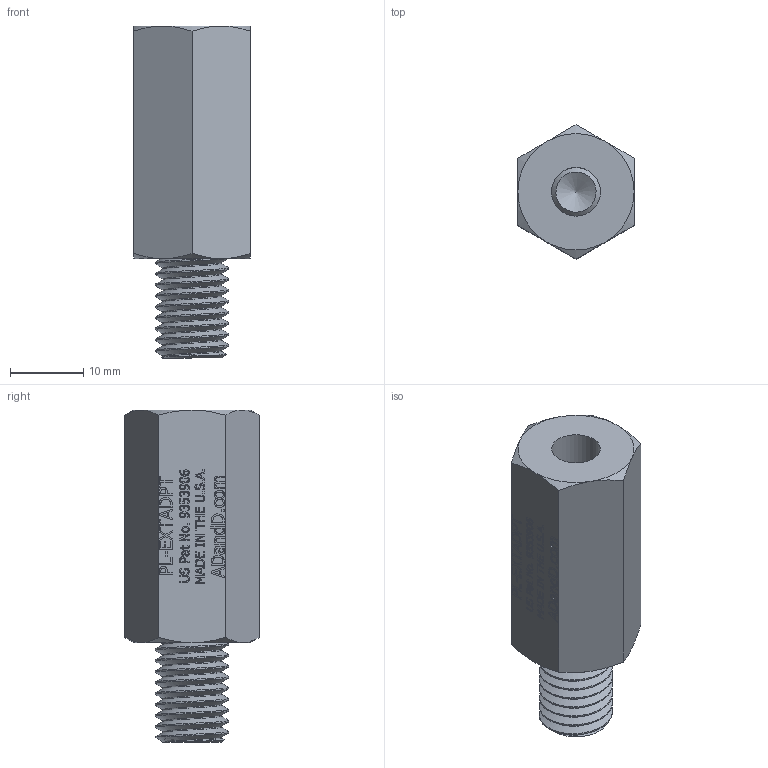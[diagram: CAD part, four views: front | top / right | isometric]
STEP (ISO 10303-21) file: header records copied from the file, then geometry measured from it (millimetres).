
FILE_DESCRIPTION(/* description */ (''),/* implementation_level */ '2;1');
FILE_NAME(/* name */ 'C:\Users\owner\Desktop\PL-ADAPTERS_3D_stp\PL-EXTADPT.stp',/* time_stamp */ '2017-09-29T13:51:49-04:00',/* author */ ('owner'),/* organization */ (''),/* preprocessor_version */ 'ST-DEVELOPER v16.5',/* originating_system */ 'Autodesk Inventor 2017',/* authorisation */ '');
FILE_SCHEMA (('CONFIG_CONTROL_DESIGN'));
Length unit declared in the file: inch
Products named in the file (3): PL-EXTADPT; 60037; 60045-M10 X 25MM LG SHSS
Assembly tree (2 placements, depth 2):
  PL-EXTADPT
    60037
    60045-M10 X 25MM LG SHSS
Bounding box: 15.88 x 18.33 x 45.31 mm (x, y, z)
Volume: 6900.3 mm3; surface area: 4088.7 mm2
Topology: 2 solids, 2 shells, 794 faces, 2130 edges, 1409 vertices
Faces by surface type: plane 447, bspline 319, cone 24, cylinder 4
Full cylindrical faces by diameter (mm): 6.655 x1, 8.382 x1
Entity records: 30303 total; most frequent: CARTESIAN_POINT 12642, ORIENTED_EDGE 4230, DIRECTION 2435, EDGE_CURVE 2115, LINE 1409, VECTOR 1409, VERTEX_POINT 1402, EDGE_LOOP 871
